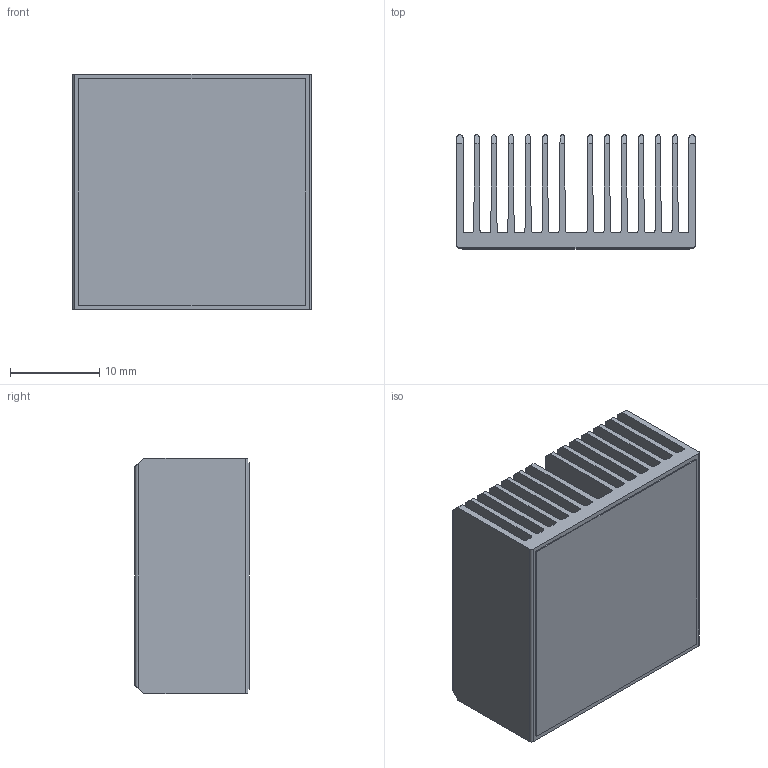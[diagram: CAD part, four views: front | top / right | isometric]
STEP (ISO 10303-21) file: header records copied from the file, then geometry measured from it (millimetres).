
FILE_DESCRIPTION (( 'STEP AP214' ), '1' );
FILE_NAME ('INL27001-13-1.7.STEP', '2023-02-21T21:34:55', ( '' ), ( '' ), 'SwSTEP 2.0', 'SolidWorks 2020', '' );
FILE_SCHEMA (( 'AUTOMOTIVE_DESIGN' ));
Length unit declared in the file: millimetre
Products named in the file (1): INL27001-13-1.7
Bounding box: 26.8 x 12.83 x 26.5 mm (x, y, z)
Volume: 3797.9 mm3; surface area: 10998.6 mm2
Topology: 2 solids, 2 shells, 120 faces, 348 edges, 232 vertices
Faces by surface type: plane 78, cylinder 42
Entity records: 5291 total; most frequent: CARTESIAN_POINT 785, ORIENTED_EDGE 696, DIRECTION 618, EDGE_CURVE 348, LINE 264, VECTOR 264, VERTEX_POINT 232, AXIS2_PLACEMENT_3D 177
